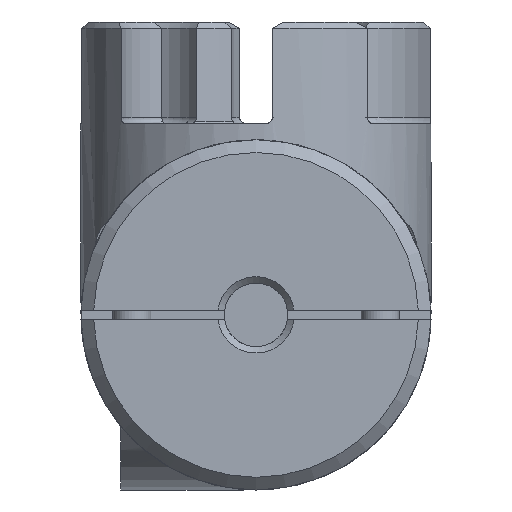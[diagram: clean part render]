
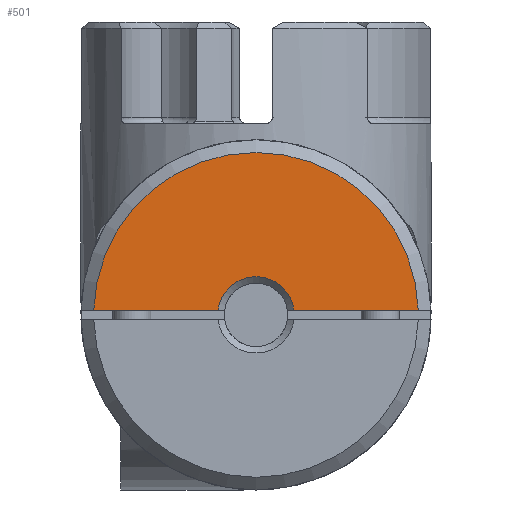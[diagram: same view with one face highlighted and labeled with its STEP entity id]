
A CAD part, front view. The second image highlights one B-rep face of the part: STEP entity #501.
In plain terms, the highlighted planar face has unit normal (0, -1, 0) as drawn and (0, 0, -1) by its records, which use the part's own axes.
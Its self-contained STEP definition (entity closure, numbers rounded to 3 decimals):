
#501 = ADVANCED_FACE( '', ( #1031 ), #1032, .T. );
#1031 = FACE_OUTER_BOUND( '', #1704, .T. );
#1032 = PLANE( '', #1705 );
#1704 = EDGE_LOOP( '', ( #2775, #2776, #2777, #2778 ) );
#1705 = AXIS2_PLACEMENT_3D( '', #2779, #2780, #2781 );
#2775 = ORIENTED_EDGE( '', *, *, #4606, .T. );
#2776 = ORIENTED_EDGE( '', *, *, #4607, .F. );
#2777 = ORIENTED_EDGE( '', *, *, #4608, .T. );
#2778 = ORIENTED_EDGE( '', *, *, #4602, .F. );
#2779 = CARTESIAN_POINT( '', ( 0., 0., 0. ) );
#2780 = DIRECTION( '', ( 0., 0., -1. ) );
#2781 = DIRECTION( '', ( -1., 0., 0. ) );
#4602 = EDGE_CURVE( '', #5399, #5401, #5402, .T. );
#4606 = EDGE_CURVE( '', #5399, #5408, #5409, .T. );
#4607 = EDGE_CURVE( '', #5410, #5408, #5411, .T. );
#4608 = EDGE_CURVE( '', #5410, #5401, #5412, .F. );
#5399 = VERTEX_POINT( '', #7068 );
#5401 = VERTEX_POINT( '', #7073 );
#5402 = LINE( '', #7074, #7075 );
#5408 = VERTEX_POINT( '', #7085 );
#5409 = CIRCLE( '', #7086, 25.5 );
#5410 = VERTEX_POINT( '', #7087 );
#5411 = LINE( '', #7088, #7089 );
#5412 = CIRCLE( '', #7090, 6. );
#7068 = CARTESIAN_POINT( '', ( 25.489, -0.75, 0. ) );
#7073 = CARTESIAN_POINT( '', ( 5.953, -0.75, 0. ) );
#7074 = CARTESIAN_POINT( '', ( 27.5, -0.75, 0. ) );
#7075 = VECTOR( '', #8757, 1000. );
#7085 = CARTESIAN_POINT( '', ( -25.489, -0.75, 0. ) );
#7086 = AXIS2_PLACEMENT_3D( '', #8762, #8763, #8764 );
#7087 = CARTESIAN_POINT( '', ( -5.953, -0.75, 0. ) );
#7088 = CARTESIAN_POINT( '', ( 27.5, -0.75, 0. ) );
#7089 = VECTOR( '', #8765, 1000. );
#7090 = AXIS2_PLACEMENT_3D( '', #8766, #8767, #8768 );
#8757 = DIRECTION( '', ( -1., 0., 0. ) );
#8762 = CARTESIAN_POINT( '', ( 0., 0., 0. ) );
#8763 = DIRECTION( '', ( 0., 0., -1. ) );
#8764 = DIRECTION( '', ( -1., 0., 0. ) );
#8765 = DIRECTION( '', ( -1., 0., 0. ) );
#8766 = CARTESIAN_POINT( '', ( 0., 0., 0. ) );
#8767 = DIRECTION( '', ( 0., 0., -1. ) );
#8768 = DIRECTION( '', ( -1., 0., 0. ) );
